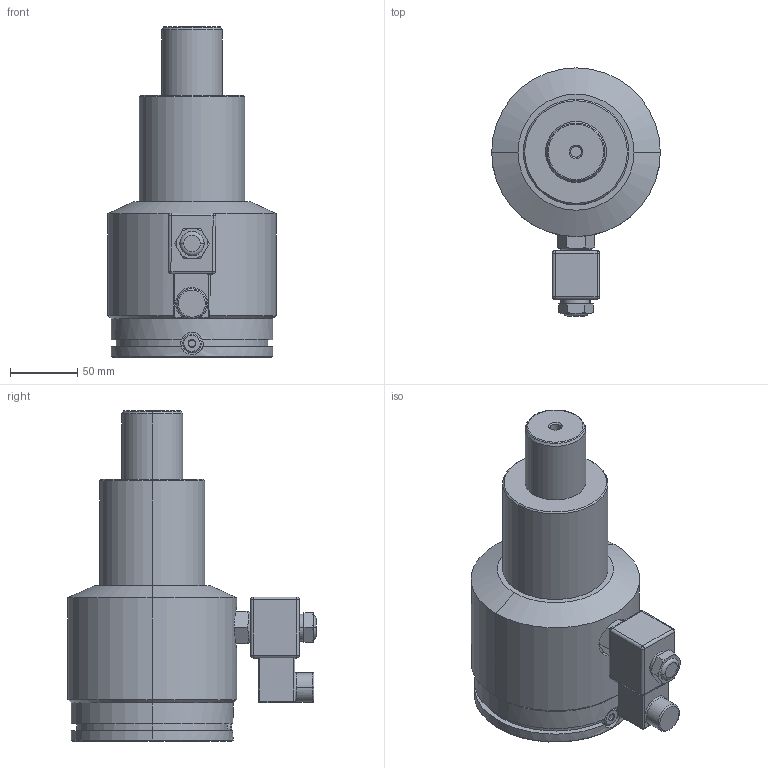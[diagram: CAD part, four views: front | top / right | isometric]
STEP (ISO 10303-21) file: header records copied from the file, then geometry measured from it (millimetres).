
FILE_DESCRIPTION(('CATIA V5 STEP Exchange'),'2;1');
FILE_NAME('W:\CATALOGO GENERAL 2015\CATIA\CILINDRO PARADA MONOCUERPO\TPMCM2400x50.stp','2023-09-26T05:23:34+00:00',('none'),('none'),'CATIA Version 5 Release 17 (IN-10)','CATIA V5 STEP AP203','none');
FILE_SCHEMA(('CONFIG_CONTROL_DESIGN'));
Length unit declared in the file: millimetre
Products named in the file (1): Stop-cylinder monolitic
Assembly tree (5 placements, depth 2):
  Stop-cylinder monolitic
    #56
    #2172
    #2324
    #2638
    #6180
Bounding box: 125 x 183.91 x 245 mm (x, y, z)
Volume: 1881928.7 mm3; surface area: 133018.5 mm2
Topology: 9 solids, 9 shells, 293 faces, 650 edges, 361 vertices
Faces by surface type: cone 84, cylinder 76, plane 68, torus 33, revolution 18, sphere 12, bspline 2
Entity records: 7917 total; most frequent: CARTESIAN_POINT 2055, ORIENTED_EDGE 1232, DIRECTION 975, EDGE_CURVE 616, AXIS2_PLACEMENT_3D 503, VERTEX_POINT 361, EDGE_LOOP 313, ADVANCED_FACE 293
